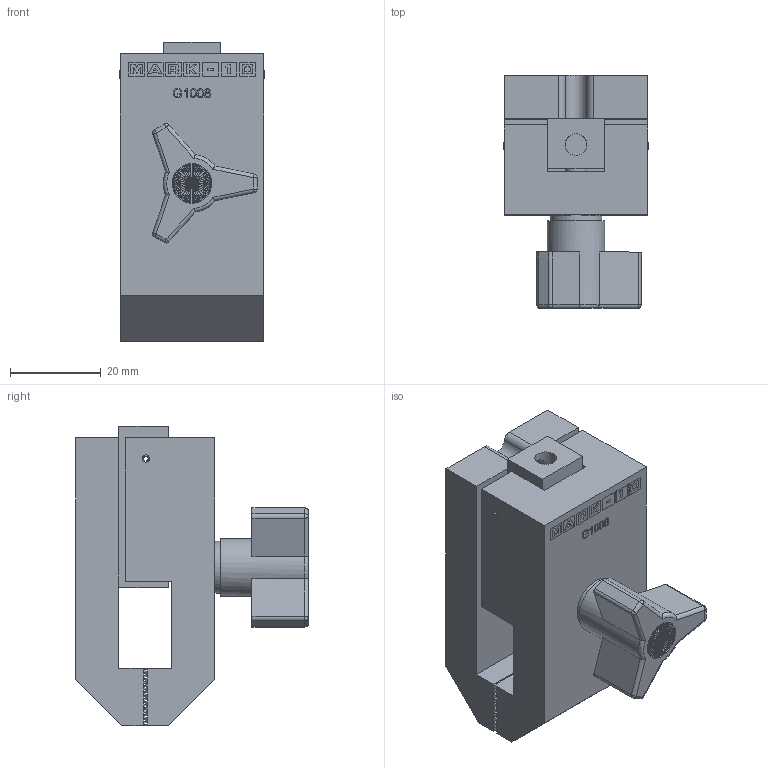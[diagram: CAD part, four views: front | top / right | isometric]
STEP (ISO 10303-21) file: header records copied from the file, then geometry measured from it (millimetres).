
FILE_DESCRIPTION((''),'2;1');
FILE_NAME('F:\CAD files\Itr\3D MARKETING MODELS\GRIPS\G1008\G1008.stp','2017-04-19T12:50:25',('mlampen'),(''),'Autodesk Inventor 2010','Autodesk Inventor 2010','');
FILE_SCHEMA(('AUTOMOTIVE_DESIGN { 1 0 10303 214 1 1 1 1 }'));
Length unit declared in the file: inch
Products named in the file (4): Assembly1; Part2; Part4; Part6
Assembly tree (3 placements, depth 2):
  Assembly1
    Part2
    Part4
    Part6
Bounding box: 31.8 x 51.33 x 66.04 mm (x, y, z)
Volume: 54478 mm3; surface area: 18244.4 mm2
Topology: 3 solids, 3 shells, 607 faces, 1512 edges, 970 vertices
Faces by surface type: plane 491, cylinder 85, bspline 21, sphere 6, torus 3, cone 1
Full cylindrical faces by diameter (mm): 0.127 x1, 0.381 x1, 0.635 x1, 0.889 x1, 1.143 x1, 1.397 x1, 1.651 x1, 1.905 x1, 1.981 x2, 2.159 x1, 2.413 x1, 2.667 x1, 2.921 x1, 3.175 x1, 3.429 x1, 3.505 x1, 3.683 x1, 3.937 x1, 4.191 x1, 4.445 x1, 4.699 x1, 4.826 x3, 4.953 x1, 5.08 x1, 5.207 x1, 5.461 x1, 5.715 x1, 5.969 x1, 6.223 x1, 6.35 x1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
Entity records: 17650 total; most frequent: CARTESIAN_POINT 3267, ORIENTED_EDGE 2902, DIRECTION 2798, EDGE_CURVE 1451, VECTOR 1272, LINE 1272, VERTEX_POINT 962, AXIS2_PLACEMENT_3D 763
